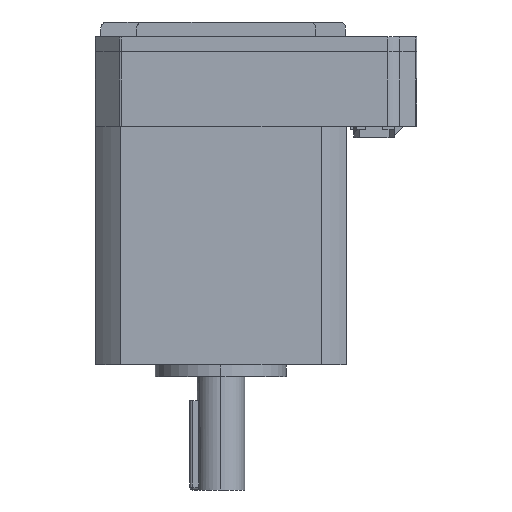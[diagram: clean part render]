
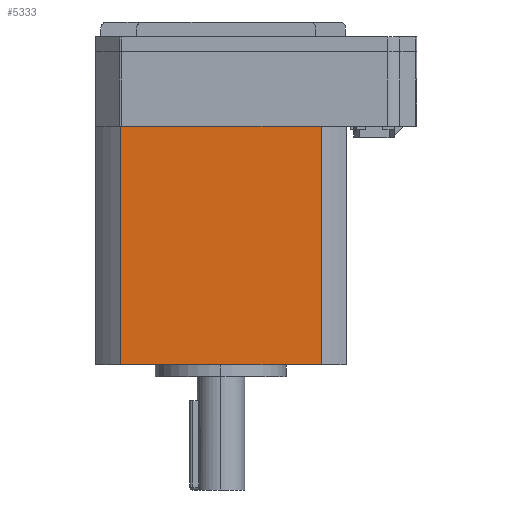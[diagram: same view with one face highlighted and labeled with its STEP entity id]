
A CAD part, left-side view. The second image highlights one B-rep face of the part: STEP entity #5333.
In plain terms, the highlighted planar face has unit normal (-1, 0, 0).
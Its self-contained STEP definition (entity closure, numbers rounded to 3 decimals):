
#330 = CARTESIAN_POINT ( 'NONE',  ( -21.1, -16.846, 40. ) ) ;
#1448 = PLANE ( 'NONE',  #27370 ) ;
#2201 = EDGE_CURVE ( 'NONE', #22358, #4120, #7059, .T. ) ;
#2320 = VECTOR ( 'NONE', #28505, 1000. ) ;
#2468 = CARTESIAN_POINT ( 'NONE',  ( -21.1, 16.846, 40. ) ) ;
#2880 = ORIENTED_EDGE ( 'NONE', *, *, #11340, .F. ) ;
#3969 = DIRECTION ( 'NONE',  ( 0., -1., 0. ) ) ;
#4120 = VERTEX_POINT ( 'NONE', #13238 ) ;
#4525 = DIRECTION ( 'NONE',  ( 0., 1., 0. ) ) ;
#5333 = ADVANCED_FACE ( 'NONE', ( #11587 ), #1448, .F. ) ;
#6208 = ORIENTED_EDGE ( 'NONE', *, *, #2201, .T. ) ;
#6480 = LINE ( 'NONE', #2468, #15619 ) ;
#7059 = LINE ( 'NONE', #21084, #9614 ) ;
#9299 = DIRECTION ( 'NONE',  ( 0., 0., -1. ) ) ;
#9614 = VECTOR ( 'NONE', #3969, 1000. ) ;
#11340 = EDGE_CURVE ( 'NONE', #40923, #4120, #25369, .T. ) ;
#11587 = FACE_OUTER_BOUND ( 'NONE', #13506, .T. ) ;
#13238 = CARTESIAN_POINT ( 'NONE',  ( -21.1, -16.846, 0. ) ) ;
#13506 = EDGE_LOOP ( 'NONE', ( #6208, #2880, #40868, #25517 ) ) ;
#14698 = EDGE_CURVE ( 'NONE', #33872, #40923, #32522, .T. ) ;
#15557 = CARTESIAN_POINT ( 'NONE',  ( -21.1, -16.846, 40. ) ) ;
#15619 = VECTOR ( 'NONE', #9299, 1000. ) ;
#17641 = CARTESIAN_POINT ( 'NONE',  ( -21.1, -16.846, 40. ) ) ;
#21084 = CARTESIAN_POINT ( 'NONE',  ( -21.1, -16.846, 0. ) ) ;
#22358 = VERTEX_POINT ( 'NONE', #29504 ) ;
#24674 = VECTOR ( 'NONE', #39690, 1000. ) ;
#25369 = LINE ( 'NONE', #17641, #24674 ) ;
#25517 = ORIENTED_EDGE ( 'NONE', *, *, #26810, .T. ) ;
#26810 = EDGE_CURVE ( 'NONE', #33872, #22358, #6480, .T. ) ;
#27370 = AXIS2_PLACEMENT_3D ( 'NONE', #15557, #41095, #4525 ) ;
#28505 = DIRECTION ( 'NONE',  ( 0., -1., 0. ) ) ;
#29504 = CARTESIAN_POINT ( 'NONE',  ( -21.1, 16.846, 0. ) ) ;
#31766 = CARTESIAN_POINT ( 'NONE',  ( -21.1, 16.846, 40. ) ) ;
#32522 = LINE ( 'NONE', #330, #2320 ) ;
#33872 = VERTEX_POINT ( 'NONE', #31766 ) ;
#39690 = DIRECTION ( 'NONE',  ( 0., 0., -1. ) ) ;
#40868 = ORIENTED_EDGE ( 'NONE', *, *, #14698, .F. ) ;
#40923 = VERTEX_POINT ( 'NONE', #44597 ) ;
#41095 = DIRECTION ( 'NONE',  ( 1., 0., 0. ) ) ;
#44597 = CARTESIAN_POINT ( 'NONE',  ( -21.1, -16.846, 40. ) ) ;
